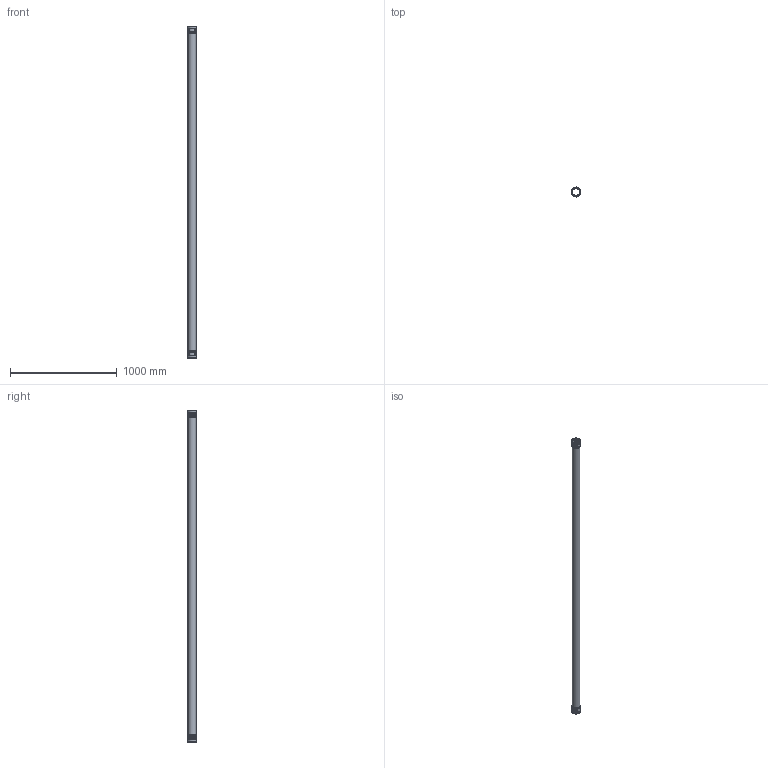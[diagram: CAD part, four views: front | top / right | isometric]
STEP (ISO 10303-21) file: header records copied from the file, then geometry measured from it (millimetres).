
FILE_DESCRIPTION(/* description */ (''),/* implementation_level */ '2;1');
FILE_NAME(/* name */ 'Z:\Geberit\Export\NewStep\Rohr2Muffen_Iassembly\stp\390314.stp',/* time_stamp */ '2014-04-03T17:50:02+02:00',/* author */ ('ML'),/* organization */ (''),/* preprocessor_version */ 'ST-DEVELOPER v15.2',/* originating_system */ 'Autodesk Inventor 2014',/* authorisation */ '');
FILE_SCHEMA (('AUTOMOTIVE_DESIGN { 1 0 10303 214 3 1 1 }'));
Length unit declared in the file: millimetre
Products named in the file (3): 861544; 861583ohne; 390314
Bounding box: 89.4 x 89.4 x 3111.4 mm (x, y, z)
Volume: 1878589.5 mm3; surface area: 1449580.2 mm2
Topology: 3 solids, 3 shells, 88 faces, 198 edges, 136 vertices
Faces by surface type: torus 48, cylinder 20, plane 18, cone 2
Full cylindrical faces by diameter (mm): 70 x3, 75.2 x3, 76 x4, 78.6 x2, 81.2 x4, 84.2 x2, 89.4 x2
Entity records: 1990 total; most frequent: CARTESIAN_POINT 960, DIRECTION 180, ORIENTED_EDGE 172, AXIS2_PLACEMENT_3D 90, EDGE_CURVE 86, EDGE_LOOP 76, VERTEX_POINT 70, B_SPLINE_CURVE_WITH_KNOTS 48
